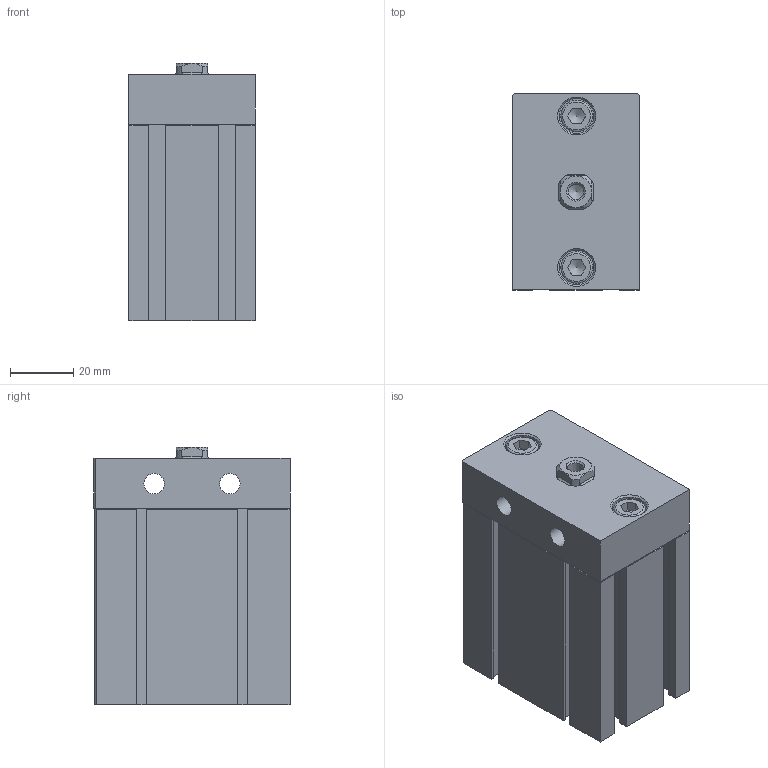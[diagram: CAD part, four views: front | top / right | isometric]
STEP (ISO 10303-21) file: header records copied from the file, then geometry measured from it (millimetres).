
FILE_DESCRIPTION((''),'2;1');
FILE_NAME('I:\3D電子目錄\氣缸\ND\ND\ND32\ND32x30.stp','2007-07-30T20:18:31',('Administrator'),(''),'Autodesk Inventor 11','Autodesk Inventor 11','');
FILE_SCHEMA(('AUTOMOTIVE_DESIGN { 1 0 10303 214 1 1 1 1 }'));
Length unit declared in the file: millimetre
Products named in the file (4): ND32; R 形環 34; ISO 4762 M6 x 16
Assembly tree (4 placements, depth 2):
  ND32
    ND32
    R 形環 34
    ISO 4762 M6 x 16  x2
Bounding box: 40 x 62.1 x 81.5 mm (x, y, z)
Volume: 171600.7 mm3; surface area: 34720.2 mm2
Topology: 5 solids, 5 shells, 195 faces, 467 edges, 297 vertices
Faces by surface type: plane 133, cylinder 25, cone 18, bspline 16, torus 3
Full cylindrical faces by diameter (mm): 1.9 x2, 2.2 x2, 6 x2, 6.5 x2, 10 x2, 11 x2, 23 x1, 34 x1, 36 x1
Entity records: 5217 total; most frequent: CARTESIAN_POINT 1095, DIRECTION 812, ORIENTED_EDGE 782, EDGE_CURVE 391, VECTOR 288, LINE 288, VERTEX_POINT 271, AXIS2_PLACEMENT_3D 262
